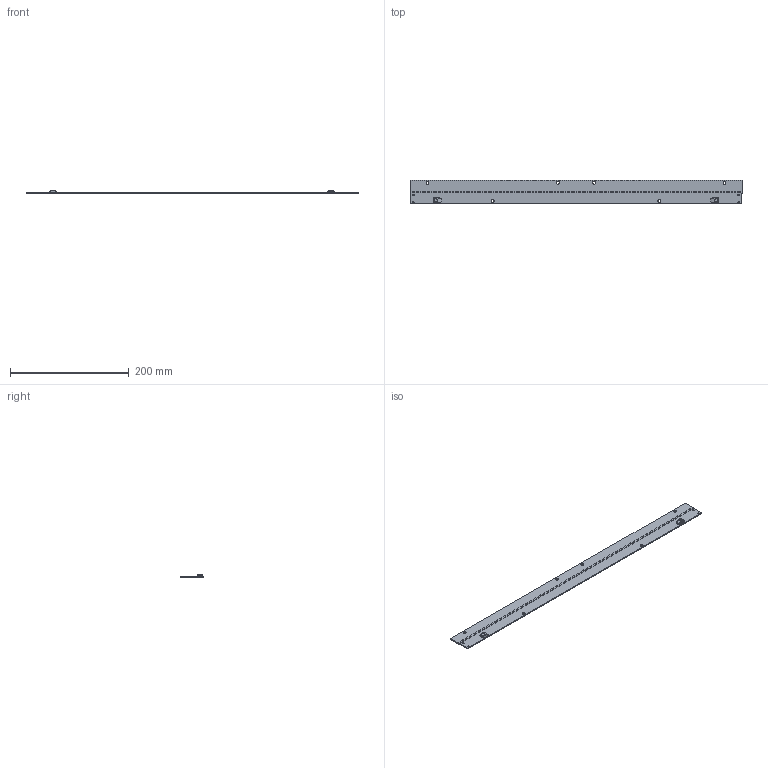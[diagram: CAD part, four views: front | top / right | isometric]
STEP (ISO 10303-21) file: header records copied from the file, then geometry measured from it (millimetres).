
FILE_DESCRIPTION(('ML60R4FL'),'2;1');
FILE_NAME('Z:\Mixdeal\Catalogo\Modelos 3D\STEP\ML60R4FL.stp','2015-06-26T15:21:27',('Nicolas Kretzig'),('MIXDEAL SA'),'Autodesk Inventor 2011','Autodesk Inventor 2011','');
FILE_SCHEMA(('AUTOMOTIVE_DESIGN { 1 0 10303 214 1 1 1 1 }'));
Length unit declared in the file: millimetre
Products named in the file (3): Placa ML60R4FL; ML60R9FL; 46-102-1001
Assembly tree (3 placements, depth 2):
  Placa ML60R4FL
    ML60R9FL
    46-102-1001  x2
Bounding box: 560 x 40 x 5.7 mm (x, y, z)
Volume: 40536.4 mm3; surface area: 48564.2 mm2
Topology: 3 solids, 3 shells, 1040 faces, 2636 edges, 1754 vertices
Faces by surface type: plane 790, bspline 142, cylinder 98, torus 8, cone 2
Full cylindrical faces by diameter (mm): 0.6 x4, 3 x4, 5 x6
Entity records: 24033 total; most frequent: CARTESIAN_POINT 7366, ORIENTED_EDGE 3372, DIRECTION 2896, EDGE_CURVE 1686, VECTOR 1408, LINE 1408, VERTEX_POINT 1128, EDGE_LOOP 818
